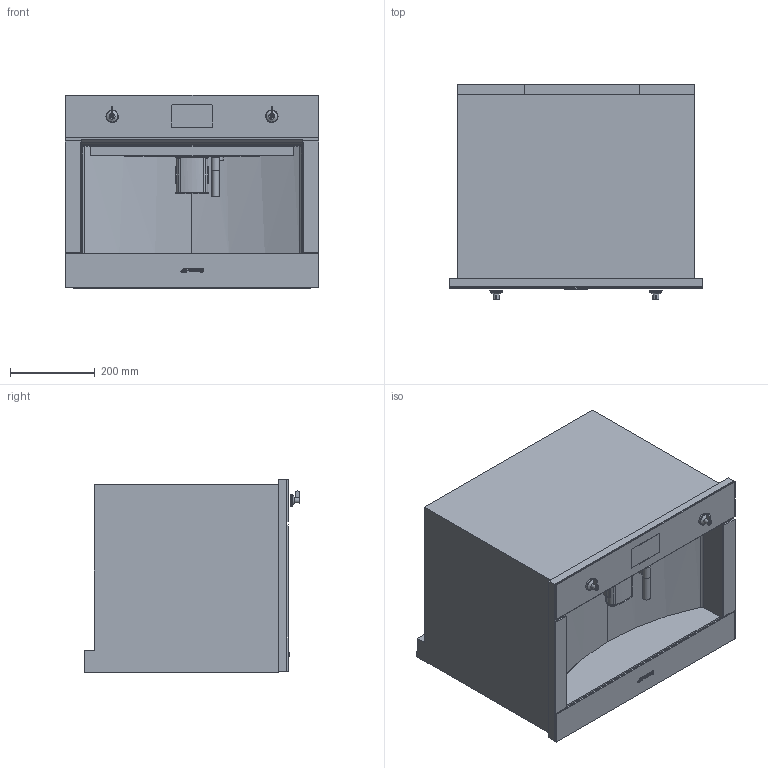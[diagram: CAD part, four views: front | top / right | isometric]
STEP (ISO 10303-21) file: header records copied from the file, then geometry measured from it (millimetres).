
FILE_DESCRIPTION(/* description */ ('Unknown'),/* implementation_level */ '2;1');
FILE_NAME(/* name */ 'CMS4303X',/* time_stamp */ '2025-10-22T14:52:49+02:00',/* author */ ('Unknown'),/* organization */ ('Unknown'),/* preprocessor_version */ 'ST-DEVELOPER v16.7',/* originating_system */ 'DEX',/* authorisation */ $);
FILE_SCHEMA (('AUTOMOTIVE_DESIGN {1 0 10303 214 3 1 1}'));
Length unit declared in the file: millimetre
Products named in the file (1): CMS4303X
Bounding box: 597 x 507.25 x 456.51 mm (x, y, z)
Volume: 97941832.6 mm3; surface area: 2093335.4 mm2
Topology: 9 solids, 11 shells, 305 faces, 786 edges, 524 vertices
Faces by surface type: plane 189, cylinder 76, bspline 28, cone 8, torus 4
Full cylindrical faces by diameter (mm): 4.613 x6, 10 x1, 13.5 x2, 18 x1, 18.995 x1, 28 x2, 29 x2
Entity records: 11831 total; most frequent: CARTESIAN_POINT 2665, ORIENTED_EDGE 1482, DIRECTION 1375, EDGE_CURVE 741, VERTEX_POINT 508, LINE 505, VECTOR 505, AXIS2_PLACEMENT_3D 435
